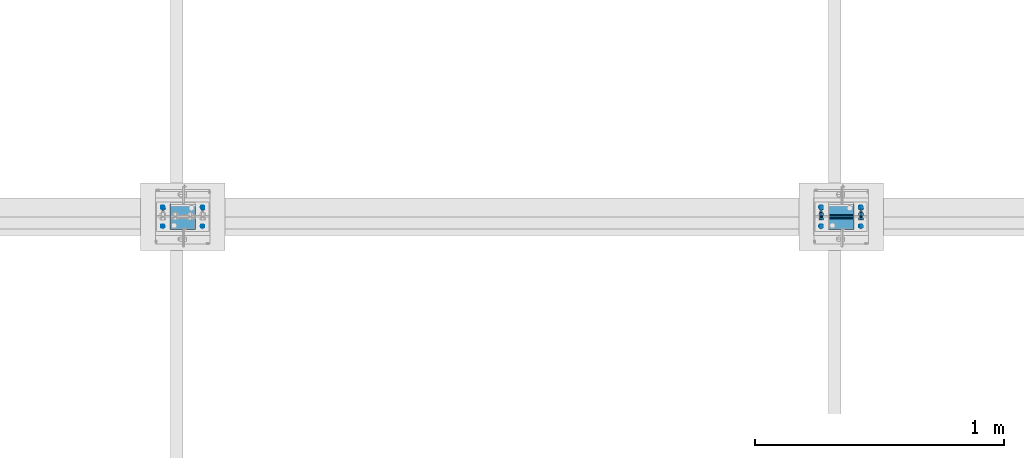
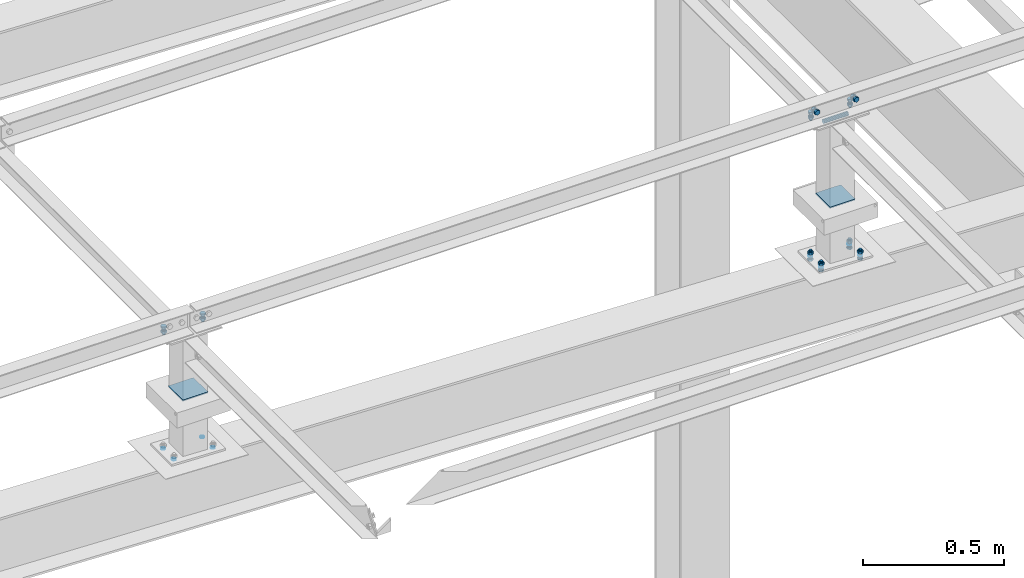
# One storey, part 178 of 3134: 9 mechanical fasteners, 6 elements without a shape of their own.
"""IFC2X3 building model written with IfcOpenShell, lengths in millimetres."""

from ifc_helpers import new_model, si_unit, frame, origin_with_axes, place, context, subcontext, project, spatial, faceted_brep, source, transform, mapped, material, type_object, element, aggregate, save


model = new_model("IFC2X3")

# Units and contexts
model_context = context("Model", 3, precision=1e-05, world=origin_with_axes())
body_context = subcontext(model_context, "Body", "Model", "MODEL_VIEW")
ifc_project = project(units=[si_unit("LENGTHUNIT", "METRE", prefix="MILLI"), si_unit("AREAUNIT", "SQUARE_METRE"), si_unit("VOLUMEUNIT", "CUBIC_METRE"), si_unit("MASSUNIT", "GRAM", prefix="KILO"), si_unit("TIMEUNIT", "SECOND"), si_unit("PLANEANGLEUNIT", "RADIAN"), si_unit("SOLIDANGLEUNIT", "STERADIAN"), si_unit("THERMODYNAMICTEMPERATUREUNIT", "DEGREE_CELSIUS"), si_unit("LUMINOUSINTENSITYUNIT", "LUMEN")], contexts=[model_context])

# Site, building, storey
site_placement = place(None, origin_with_axes())
site = spatial("IfcSite", under=ifc_project, at=site_placement, CompositionType="ELEMENT")
building_placement = place(site_placement, origin_with_axes())
building = spatial("IfcBuilding", under=site, at=building_placement, Name="Undefined", CompositionType="ELEMENT")
storey_placement = place(building_placement, origin_with_axes())
storey = spatial("IfcBuildingStorey", under=building, at=storey_placement, Name="Undefined", CompositionType="ELEMENT", Elevation=0.0)

# Assembly, mechanical fastener
assembly_1_placement = place(storey_placement, origin_with_axes())
assembly_1 = element("IfcElementAssembly", 1, at=assembly_1_placement, inside=storey, AssemblyPlace="NOTDEFINED", PredefinedType="RIGID_FRAME")
ifc_material_1 = material(Name="8.8")
mechanical_fastener_type = type_object("IfcMechanicalFastenerType", Name="Bolt assembly")
shared_shape_1 = source(origin_with_axes(), body_context, "Body", "Brep", [
    faceted_brep([(10.9696551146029, -14.0, 0.0), (5.48482755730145, -14.0, 9.5), (-5.48482755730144, -14.0, 9.5), (-10.9696551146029, -14.0, 1.34339530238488e-15), (-5.48482755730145, -14.0, -9.5), (5.48482755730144, -14.0, -9.50000000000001), (5.48482755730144, -6.0, -9.50000000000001), (-5.48482755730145, -6.0, -9.5), (-10.9696551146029, -6.0, 1.34339530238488e-15), (-5.48482755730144, -6.0, 9.5), (5.48482755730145, -6.0, 9.5), (10.9696551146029, -6.0, 0.0), (6.0, -6.0, 0.0), (5.19615242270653, -6.0, 3.00000000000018), (2.99999999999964, -6.0, 5.19615242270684), (-6.21801588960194e-13, -6.0, 6.0), (-3.00000000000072, -6.0, 5.19615242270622), (-5.19615242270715, -6.0, 2.9999999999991), (-6.0, -6.0, -1.24360317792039e-12), (-5.19615242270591, -6.0, -3.00000000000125), (-2.99999999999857, -6.0, -5.19615242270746), (1.85874342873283e-12, -6.0, -6.0), (3.00000000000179, -6.0, -5.1961524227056), (5.19615242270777, -6.0, -2.99999999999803), (5.19615242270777, 24.0, -2.99999999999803), (3.00000000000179, 24.0, -5.1961524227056), (1.85874342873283e-12, 24.0, -6.0), (-2.99999999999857, 24.0, -5.19615242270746), (-5.19615242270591, 24.0, -3.00000000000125), (-6.0, 24.0, -1.24360317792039e-12), (-5.19615242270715, 24.0, 2.9999999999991), (-3.00000000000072, 24.0, 5.19615242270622), (-6.21801588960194e-13, 24.0, 6.0), (2.99999999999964, 24.0, 5.19615242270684), (5.19615242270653, 24.0, 3.00000000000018), (6.0, 24.0, 0.0), (10.9696551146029, 6.00000000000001, 0.0), (5.48482755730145, 6.00000000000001, 9.5), (-5.48482755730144, 6.00000000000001, 9.5), (-10.9696551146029, 6.00000000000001, 1.34339530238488e-15), (-5.48482755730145, 6.00000000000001, -9.5), (5.48482755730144, 6.00000000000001, -9.50000000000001), (5.48482755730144, 16.0, -9.50000000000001), (-5.48482755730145, 16.0, -9.5), (-10.9696551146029, 16.0, 1.34339530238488e-15), (-5.48482755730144, 16.0, 9.5), (5.48482755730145, 16.0, 9.5), (10.9696551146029, 16.0, 0.0)], [[[0, 1, 2, 3, 4, 5]], [[6, 7, 8, 9, 10, 11]], [[0, 11, 10, 1]], [[1, 10, 9, 2]], [[2, 9, 8, 3]], [[3, 8, 7, 4]], [[4, 7, 6, 5]], [[5, 6, 11, 0]], [[12, 13, 14, 15, 16, 17, 18, 19, 20, 21, 22, 23]], [[24, 25, 26, 27, 28, 29, 30, 31, 32, 33, 34, 35]], [[12, 35, 34, 13]], [[13, 34, 33, 14]], [[14, 33, 32, 15]], [[15, 32, 31, 16]], [[16, 31, 30, 17]], [[17, 30, 29, 18]], [[18, 29, 28, 19]], [[19, 28, 27, 20]], [[20, 27, 26, 21]], [[21, 26, 25, 22]], [[22, 25, 24, 23]], [[23, 24, 35, 12]], [[36, 37, 38, 39, 40, 41]], [[42, 43, 44, 45, 46, 47]], [[36, 47, 46, 37]], [[37, 46, 45, 38]], [[38, 45, 44, 39]], [[39, 44, 43, 40]], [[40, 43, 42, 41]], [[41, 42, 47, 36]]]),
    faceted_brep([(7.0, -0.1, 0.0), (6.06217782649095, -0.1, 3.50000000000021), (3.49999999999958, -0.1, 6.06217782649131), (-7.25435187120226e-13, -0.1, 7.0), (-3.50000000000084, -0.1, 6.06217782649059), (-6.06217782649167, -0.1, 3.49999999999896), (-7.0, -0.1, -1.45087037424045e-12), (-6.06217782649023, -0.1, -3.50000000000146), (-3.49999999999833, -0.1, -6.06217782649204), (2.1685340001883e-12, -0.1, -7.0), (3.50000000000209, -0.1, -6.06217782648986), (6.0621778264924, -0.1, -3.4999999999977), (6.0621778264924, 6.00000000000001, -3.4999999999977), (3.50000000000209, 6.00000000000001, -6.06217782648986), (2.1685340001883e-12, 6.00000000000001, -7.0), (-3.49999999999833, 6.00000000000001, -6.06217782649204), (-6.06217782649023, 6.00000000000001, -3.50000000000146), (-7.0, 6.00000000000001, -1.45087037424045e-12), (-6.06217782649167, 6.00000000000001, 3.49999999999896), (-3.50000000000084, 6.00000000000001, 6.06217782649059), (-7.25435187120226e-13, 6.00000000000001, 7.0), (3.49999999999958, 6.00000000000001, 6.06217782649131), (6.06217782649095, 6.00000000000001, 3.50000000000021), (7.0, 6.00000000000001, 0.0), (7.0, -5.9, 0.0), (6.06217782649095, -5.9, 3.50000000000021), (3.49999999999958, -5.9, 6.06217782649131), (-7.25435187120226e-13, -5.9, 7.0), (-3.50000000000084, -5.9, 6.06217782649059), (-6.06217782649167, -5.9, 3.49999999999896), (-7.0, -5.9, -1.45087037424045e-12), (-6.06217782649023, -5.9, -3.50000000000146), (-3.49999999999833, -5.9, -6.06217782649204), (2.1685340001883e-12, -5.9, -7.0), (3.50000000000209, -5.9, -6.06217782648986), (6.0621778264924, -5.9, -3.4999999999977), (6.0621778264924, 0.0999999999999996, -3.4999999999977), (3.50000000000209, 0.0999999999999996, -6.06217782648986), (2.1685340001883e-12, 0.0999999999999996, -7.0), (-3.49999999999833, 0.0999999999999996, -6.06217782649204), (-6.06217782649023, 0.0999999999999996, -3.50000000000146), (-7.0, 0.0999999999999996, -1.45087037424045e-12), (-6.06217782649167, 0.0999999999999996, 3.49999999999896), (-3.50000000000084, 0.0999999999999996, 6.06217782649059), (-7.25435187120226e-13, 0.0999999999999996, 7.0), (3.49999999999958, 0.0999999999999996, 6.06217782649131), (6.06217782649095, 0.0999999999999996, 3.50000000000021), (7.0, 0.0999999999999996, 0.0)], [[[0, 1, 2, 3, 4, 5, 6, 7, 8, 9, 10, 11]], [[12, 13, 14, 15, 16, 17, 18, 19, 20, 21, 22, 23]], [[0, 23, 22, 1]], [[1, 22, 21, 2]], [[2, 21, 20, 3]], [[3, 20, 19, 4]], [[4, 19, 18, 5]], [[5, 18, 17, 6]], [[6, 17, 16, 7]], [[7, 16, 15, 8]], [[8, 15, 14, 9]], [[9, 14, 13, 10]], [[10, 13, 12, 11]], [[11, 12, 23, 0]], [[24, 25, 26, 27, 28, 29, 30, 31, 32, 33, 34, 35]], [[36, 37, 38, 39, 40, 41, 42, 43, 44, 45, 46, 47]], [[24, 47, 46, 25]], [[25, 46, 45, 26]], [[26, 45, 44, 27]], [[27, 44, 43, 28]], [[28, 43, 42, 29]], [[29, 42, 41, 30]], [[30, 41, 40, 31]], [[31, 40, 39, 32]], [[32, 39, 38, 33]], [[33, 38, 37, 34]], [[34, 37, 36, 35]], [[35, 36, 47, 24]]]),
])
mechanical_fastener_1_placement = place(assembly_1_placement, frame((8340.0, 37616.25, 4365.0), z_axis=(1.0, 0.0, 0.0), x_axis=(0.0, -1.0, 0.0)))
mechanical_fastener_1 = element("IfcMechanicalFastener", 2, at=mechanical_fastener_1_placement, type_object=mechanical_fastener_type, material=ifc_material_1, Name="Bolt assembly", NominalDiameter=12.0, NominalLength=30.0, context=body_context, shape_type="MappedRepresentation", body=[
    mapped(shared_shape_1, transform((0.0, -5.32963895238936e-10, -79.9999999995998))),
    mapped(shared_shape_1, transform((0.0, 5.3114490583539e-10, 79.9999999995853))),
])

assembly_2_placement = place(storey_placement, origin_with_axes())
assembly_2 = element("IfcElementAssembly", 3, at=assembly_2_placement, inside=storey, AssemblyPlace="NOTDEFINED", PredefinedType="RIGID_FRAME")
mechanical_fastener_2_placement = place(assembly_2_placement, frame((5691.67, 37616.25, 4365.0), z_axis=(1.0, 0.0, 0.0), x_axis=(0.0, -1.0, 0.0)))
mechanical_fastener_2 = element("IfcMechanicalFastener", 4, at=mechanical_fastener_2_placement, type_object=mechanical_fastener_type, material=ifc_material_1, Name="Bolt assembly", NominalDiameter=12.0, NominalLength=30.0, context=body_context, shape_type="MappedRepresentation", body=[
    mapped(shared_shape_1, transform((0.0, -5.32963895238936e-10, -79.9999999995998))),
    mapped(shared_shape_1, transform((0.0, 5.3114490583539e-10, 79.9999999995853))),
])
aggregate(assembly_2, [mechanical_fastener_2])

assembly_3_placement = place(storey_placement, origin_with_axes())
assembly_3 = element("IfcElementAssembly", 5, at=assembly_3_placement, inside=storey, AssemblyPlace="NOTDEFINED", PredefinedType="RIGID_FRAME")
shared_shape_2 = source(origin_with_axes(), body_context, "Body", "Brep", [
    faceted_brep([(10.9696551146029, -4.18346828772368, 0.0), (5.48482755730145, -4.18346828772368, 9.5), (-5.48482755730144, -4.18346828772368, 9.5), (-10.9696551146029, -4.18346828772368, 1.34339530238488e-15), (-5.48482755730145, -4.18346828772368, -9.5), (5.48482755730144, -4.18346828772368, -9.50000000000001), (5.48482755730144, 3.81653171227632, -9.50000000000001), (-5.48482755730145, 3.81653171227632, -9.5), (-10.9696551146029, 3.81653171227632, 1.34339530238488e-15), (-5.48482755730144, 3.81653171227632, 9.5), (5.48482755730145, 3.81653171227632, 9.5), (10.9696551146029, 3.81653171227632, 0.0), (6.0, 3.81653171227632, 0.0), (5.19615242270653, 3.81653171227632, 3.00000000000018), (2.99999999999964, 3.81653171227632, 5.19615242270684), (-6.21801588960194e-13, 3.81653171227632, 6.0), (-3.00000000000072, 3.81653171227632, 5.19615242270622), (-5.19615242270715, 3.81653171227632, 2.9999999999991), (-6.0, 3.81653171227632, -1.24360317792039e-12), (-5.19615242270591, 3.81653171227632, -3.00000000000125), (-2.99999999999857, 3.81653171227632, -5.19615242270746), (1.85874342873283e-12, 3.81653171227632, -6.0), (3.00000000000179, 3.81653171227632, -5.1961524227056), (5.19615242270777, 3.81653171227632, -2.99999999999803), (5.19615242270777, 38.8165317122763, -2.99999999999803), (3.00000000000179, 38.8165317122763, -5.1961524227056), (1.85874342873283e-12, 38.8165317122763, -6.0), (-2.99999999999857, 38.8165317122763, -5.19615242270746), (-5.19615242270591, 38.8165317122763, -3.00000000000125), (-6.0, 38.8165317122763, -1.24360317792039e-12), (-5.19615242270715, 38.8165317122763, 2.9999999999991), (-3.00000000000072, 38.8165317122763, 5.19615242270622), (-6.21801588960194e-13, 38.8165317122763, 6.0), (2.99999999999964, 38.8165317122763, 5.19615242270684), (5.19615242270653, 38.8165317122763, 3.00000000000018), (6.0, 38.8165317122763, 0.0), (10.9696551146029, 23.0139082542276, 0.0), (5.48482755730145, 23.0139082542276, 9.5), (-5.48482755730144, 23.0139082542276, 9.5), (-10.9696551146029, 23.0139082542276, 1.34339530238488e-15), (-5.48482755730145, 23.0139082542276, -9.5), (5.48482755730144, 23.0139082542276, -9.50000000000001), (5.48482755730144, 33.0139082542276, -9.50000000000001), (-5.48482755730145, 33.0139082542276, -9.5), (-10.9696551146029, 33.0139082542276, 1.34339530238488e-15), (-5.48482755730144, 33.0139082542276, 9.5), (5.48482755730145, 33.0139082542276, 9.5), (10.9696551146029, 33.0139082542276, 0.0)], [[[0, 1, 2, 3, 4, 5]], [[6, 7, 8, 9, 10, 11]], [[0, 11, 10, 1]], [[1, 10, 9, 2]], [[2, 9, 8, 3]], [[3, 8, 7, 4]], [[4, 7, 6, 5]], [[5, 6, 11, 0]], [[12, 13, 14, 15, 16, 17, 18, 19, 20, 21, 22, 23]], [[24, 25, 26, 27, 28, 29, 30, 31, 32, 33, 34, 35]], [[12, 35, 34, 13]], [[13, 34, 33, 14]], [[14, 33, 32, 15]], [[15, 32, 31, 16]], [[16, 31, 30, 17]], [[17, 30, 29, 18]], [[18, 29, 28, 19]], [[19, 28, 27, 20]], [[20, 27, 26, 21]], [[21, 26, 25, 22]], [[22, 25, 24, 23]], [[23, 24, 35, 12]], [[36, 37, 38, 39, 40, 41]], [[42, 43, 44, 45, 46, 47]], [[36, 47, 46, 37]], [[37, 46, 45, 38]], [[38, 45, 44, 39]], [[39, 44, 43, 40]], [[40, 43, 42, 41]], [[41, 42, 47, 36]]]),
    faceted_brep([(7.0, 3.91653171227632, 0.0), (6.06217782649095, 3.91653171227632, 3.50000000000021), (3.49999999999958, 3.91653171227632, 6.06217782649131), (-7.25435187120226e-13, 3.91653171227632, 7.0), (-3.50000000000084, 3.91653171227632, 6.06217782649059), (-6.06217782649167, 3.91653171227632, 3.49999999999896), (-7.0, 3.91653171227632, -1.45087037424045e-12), (-6.06217782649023, 3.91653171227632, -3.50000000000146), (-3.49999999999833, 3.91653171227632, -6.06217782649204), (2.1685340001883e-12, 3.91653171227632, -7.0), (3.50000000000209, 3.91653171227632, -6.06217782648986), (6.0621778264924, 3.91653171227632, -3.4999999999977), (6.0621778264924, 13.1165315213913, -3.4999999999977), (3.50000000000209, 13.1165315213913, -6.06217782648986), (2.1685340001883e-12, 13.1165315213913, -7.0), (-3.49999999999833, 13.1165315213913, -6.06217782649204), (-6.06217782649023, 13.1165315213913, -3.50000000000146), (-7.0, 13.1165315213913, -1.45087037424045e-12), (-6.06217782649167, 13.1165315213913, 3.49999999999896), (-3.50000000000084, 13.1165315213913, 6.06217782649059), (-7.25435187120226e-13, 13.1165315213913, 7.0), (3.49999999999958, 13.1165315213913, 6.06217782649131), (6.06217782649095, 13.1165315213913, 3.50000000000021), (7.0, 13.1165315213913, 0.0), (7.0, 14.9139082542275, 0.0), (6.06217782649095, 14.9139082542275, 3.50000000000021), (3.49999999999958, 14.9139082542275, 6.06217782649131), (-7.25435187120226e-13, 14.9139082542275, 7.0), (-3.50000000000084, 14.9139082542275, 6.06217782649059), (-6.06217782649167, 14.9139082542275, 3.49999999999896), (-7.0, 14.9139082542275, -1.45087037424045e-12), (-6.06217782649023, 14.9139082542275, -3.50000000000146), (-3.49999999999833, 14.9139082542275, -6.06217782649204), (2.1685340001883e-12, 14.9139082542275, -7.0), (3.50000000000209, 14.9139082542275, -6.06217782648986), (6.0621778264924, 14.9139082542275, -3.4999999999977), (6.0621778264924, 23.0139082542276, -3.4999999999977), (3.50000000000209, 23.0139082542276, -6.06217782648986), (2.1685340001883e-12, 23.0139082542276, -7.0), (-3.49999999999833, 23.0139082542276, -6.06217782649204), (-6.06217782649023, 23.0139082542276, -3.50000000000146), (-7.0, 23.0139082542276, -1.45087037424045e-12), (-6.06217782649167, 23.0139082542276, 3.49999999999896), (-3.50000000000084, 23.0139082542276, 6.06217782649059), (-7.25435187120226e-13, 23.0139082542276, 7.0), (3.49999999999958, 23.0139082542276, 6.06217782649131), (6.06217782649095, 23.0139082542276, 3.50000000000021), (7.0, 23.0139082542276, 0.0)], [[[0, 1, 2, 3, 4, 5, 6, 7, 8, 9, 10, 11]], [[12, 13, 14, 15, 16, 17, 18, 19, 20, 21, 22, 23]], [[0, 23, 22, 1]], [[1, 22, 21, 2]], [[2, 21, 20, 3]], [[3, 20, 19, 4]], [[4, 19, 18, 5]], [[5, 18, 17, 6]], [[6, 17, 16, 7]], [[7, 16, 15, 8]], [[8, 15, 14, 9]], [[9, 14, 13, 10]], [[10, 13, 12, 11]], [[11, 12, 23, 0]], [[24, 25, 26, 27, 28, 29, 30, 31, 32, 33, 34, 35]], [[36, 37, 38, 39, 40, 41, 42, 43, 44, 45, 46, 47]], [[24, 47, 46, 25]], [[25, 46, 45, 26]], [[26, 45, 44, 27]], [[27, 44, 43, 28]], [[28, 43, 42, 29]], [[29, 42, 41, 30]], [[30, 41, 40, 31]], [[31, 40, 39, 32]], [[32, 39, 38, 33]], [[33, 38, 37, 34]], [[34, 37, 36, 35]], [[35, 36, 47, 24]]]),
])
mechanical_fastener_3_placement = place(assembly_3_placement, frame((8339.1931765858, 37619.2499999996, 3735.10000668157), z_axis=(-0.999387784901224, 0.0, 0.0349865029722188), x_axis=(0.0, -1.0, 0.0)))
mechanical_fastener_3 = element("IfcMechanicalFastener", 6, at=mechanical_fastener_3_placement, type_object=mechanical_fastener_type, material=ifc_material_1, Name="Bolt assembly", NominalDiameter=12.0, NominalLength=35.0, context=body_context, shape_type="MappedRepresentation", body=[
    mapped(shared_shape_2, transform((0.0, -5.32963895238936e-10, -79.9999999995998))),
    mapped(shared_shape_2, transform((76.0, -5.32963895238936e-10, -79.9999999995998))),
    mapped(shared_shape_2, transform((0.0, 5.3114490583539e-10, 79.9999999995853))),
    mapped(shared_shape_2, transform((76.0, 5.3114490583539e-10, 79.9999999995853))),
])

assembly_4_placement = place(storey_placement, origin_with_axes())
assembly_4 = element("IfcElementAssembly", 7, at=assembly_4_placement, inside=storey, AssemblyPlace="NOTDEFINED", PredefinedType="RIGID_FRAME")
shared_shape_3 = source(origin_with_axes(), body_context, "Body", "Brep", [
    faceted_brep([(7.0, 13.0000253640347, 0.0), (6.06217782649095, 13.0000253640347, 3.50000000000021), (3.49999999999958, 13.0000253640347, 6.06217782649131), (-7.25435187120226e-13, 13.0000253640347, 7.0), (-3.50000000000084, 13.0000253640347, 6.06217782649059), (-6.06217782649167, 13.0000253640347, 3.49999999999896), (-7.0, 13.0000253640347, -1.45087037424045e-12), (-6.06217782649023, 13.0000253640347, -3.50000000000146), (-3.49999999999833, 13.0000253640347, -6.06217782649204), (2.1685340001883e-12, 13.0000253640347, -7.0), (3.50000000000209, 13.0000253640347, -6.06217782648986), (6.0621778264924, 13.0000253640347, -3.4999999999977), (6.0621778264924, 15.0999999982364, -3.4999999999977), (3.50000000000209, 15.0999999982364, -6.06217782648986), (2.1685340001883e-12, 15.0999999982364, -7.0), (-3.49999999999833, 15.0999999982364, -6.06217782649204), (-6.06217782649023, 15.0999999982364, -3.50000000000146), (-7.0, 15.0999999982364, -1.45087037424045e-12), (-6.06217782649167, 15.0999999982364, 3.49999999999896), (-3.50000000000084, 15.0999999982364, 6.06217782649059), (-7.25435187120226e-13, 15.0999999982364, 7.0), (3.49999999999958, 15.0999999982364, 6.06217782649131), (6.06217782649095, 15.0999999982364, 3.50000000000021), (7.0, 15.0999999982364, 0.0)], [[[0, 1, 2, 3, 4, 5, 6, 7, 8, 9, 10, 11]], [[12, 13, 14, 15, 16, 17, 18, 19, 20, 21, 22, 23]], [[0, 23, 22, 1]], [[1, 22, 21, 2]], [[2, 21, 20, 3]], [[3, 20, 19, 4]], [[4, 19, 18, 5]], [[5, 18, 17, 6]], [[6, 17, 16, 7]], [[7, 16, 15, 8]], [[8, 15, 14, 9]], [[9, 14, 13, 10]], [[10, 13, 12, 11]], [[11, 12, 23, 0]]]),
])
mechanical_fastener_4_placement = place(assembly_4_placement, frame((5690.86474073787, 37619.2499999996, 3827.79222028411), z_axis=(-0.999387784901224, 0.0, 0.0349865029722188), x_axis=(0.0, -1.0, 0.0)))
mechanical_fastener_4 = element("IfcMechanicalFastener", 8, at=mechanical_fastener_4_placement, type_object=mechanical_fastener_type, material=ifc_material_1, Name="Bolt assembly", NominalDiameter=12.0, NominalLength=2.0, context=body_context, shape_type="MappedRepresentation", body=[
    mapped(shared_shape_3, transform((0.0, -5.32963895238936e-10, -79.9999999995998))),
    mapped(shared_shape_3, transform((76.0, -5.32963895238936e-10, -79.9999999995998))),
    mapped(shared_shape_3, transform((0.0, 5.3114490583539e-10, 79.9999999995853))),
    mapped(shared_shape_3, transform((76.0, 5.3114490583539e-10, 79.9999999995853))),
])
aggregate(assembly_4, [mechanical_fastener_4])

assembly_5_placement = place(storey_placement, origin_with_axes())
assembly_5 = element("IfcElementAssembly", 9, at=assembly_5_placement, inside=storey, AssemblyPlace="NOTDEFINED", PredefinedType="RIGID_FRAME")
mechanical_fastener_5_placement = place(assembly_5_placement, frame((8339.1931765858, 37619.2499999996, 3735.10000668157), z_axis=(-0.999387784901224, 0.0, 0.0349865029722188), x_axis=(0.0, -1.0, 0.0)))
mechanical_fastener_5 = element("IfcMechanicalFastener", 10, at=mechanical_fastener_5_placement, type_object=mechanical_fastener_type, material=ifc_material_1, Name="Bolt assembly", NominalDiameter=12.0, NominalLength=2.0, context=body_context, shape_type="MappedRepresentation", body=[
    mapped(shared_shape_3, transform((0.0, -5.32963895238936e-10, -79.9999999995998))),
    mapped(shared_shape_3, transform((76.0, -5.32963895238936e-10, -79.9999999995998))),
    mapped(shared_shape_3, transform((0.0, 5.3114490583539e-10, 79.9999999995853))),
    mapped(shared_shape_3, transform((76.0, 5.3114490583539e-10, 79.9999999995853))),
])
aggregate(assembly_5, [mechanical_fastener_5])

# Mechanical fastener
shared_shape_4 = source(origin_with_axes(), body_context, "Body", "Brep", [
    faceted_brep([(9.0, -50.0, 0.0), (7.79422863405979, -50.0, 4.50000000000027), (4.49999999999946, -50.0, 7.79422863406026), (-9.3270238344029e-13, -50.0, 9.0), (-4.50000000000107, -50.0, 7.79422863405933), (-7.79422863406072, -50.0, 4.49999999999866), (-9.0, -50.0, -1.86540476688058e-12), (-7.79422863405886, -50.0, -4.50000000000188), (-4.49999999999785, -50.0, -7.79422863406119), (2.78811514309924e-12, -50.0, -9.0), (4.50000000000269, -50.0, -7.7942286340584), (7.79422863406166, -50.0, -4.49999999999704), (7.79422863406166, 50.1, -4.49999999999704), (4.50000000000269, 50.1, -7.7942286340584), (2.78811514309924e-12, 50.1, -9.0), (-4.49999999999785, 50.1, -7.79422863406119), (-7.79422863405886, 50.1, -4.50000000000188), (-9.0, 50.1, -1.86540476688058e-12), (-7.79422863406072, 50.1, 4.49999999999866), (-4.50000000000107, 50.1, 7.79422863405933), (-9.3270238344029e-13, 50.1, 9.0), (4.49999999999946, 50.1, 7.79422863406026), (7.79422863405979, 50.1, 4.50000000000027), (9.0, 50.1, 0.0)], [[[0, 1, 2, 3, 4, 5, 6, 7, 8, 9, 10, 11]], [[12, 13, 14, 15, 16, 17, 18, 19, 20, 21, 22, 23]], [[0, 23, 22, 1]], [[1, 22, 21, 2]], [[2, 21, 20, 3]], [[3, 20, 19, 4]], [[4, 19, 18, 5]], [[5, 18, 17, 6]], [[6, 17, 16, 7]], [[7, 16, 15, 8]], [[8, 15, 14, 9]], [[9, 14, 13, 10]], [[10, 13, 12, 11]], [[11, 12, 23, 0]]]),
])
mechanical_fastener_6_placement = place(assembly_3_placement, frame((8340.0, 37581.25, 4345.0), z_axis=(0.0, 1.0, 0.0), x_axis=(0.0, 0.0, 1.0)))
mechanical_fastener_6 = element("IfcMechanicalFastener", 11, at=mechanical_fastener_6_placement, type_object=mechanical_fastener_type, material=ifc_material_1, Name="Bolt assembly", NominalDiameter=16.0, NominalLength=100.0, context=body_context, shape_type="MappedRepresentation", body=[
    mapped(shared_shape_4, transform((0.0, 0.0, 0.0))),
])

# Assembly, mechanical fastener
assembly_6_placement = place(storey_placement, origin_with_axes())
assembly_6 = element("IfcElementAssembly", 12, at=assembly_6_placement, inside=storey, AssemblyPlace="NOTDEFINED", PredefinedType="RIGID_FRAME")
ifc_material_2 = material(Name="6.8")
shared_shape_5 = source(origin_with_axes(), body_context, "Body", "Brep", [
    faceted_brep([(51.5, 1.36424205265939e-12, 50.0), (51.3858192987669, 1.36424205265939e-12, 50.5740251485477), (51.0606601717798, 1.36424205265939e-12, 51.0606601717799), (50.5740251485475, 1.36424205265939e-12, 51.385819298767), (-50.0000000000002, 1.36424205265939e-12, 51.5), (-50.7500000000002, 1.36424205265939e-12, 51.2990381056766), (-51.2990381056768, 1.36424205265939e-12, 50.7499999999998), (-51.5, 1.36424205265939e-12, 49.9999999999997), (-51.5, 1.36424205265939e-12, -50.0000000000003), (-51.2990381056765, 1.36424205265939e-12, -50.7500000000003), (-50.7499999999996, 1.36424205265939e-12, -51.2990381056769), (-49.9999999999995, 1.36424205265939e-12, -51.5), (50.0000000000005, 1.36424205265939e-12, -51.5), (50.7500000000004, 1.36424205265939e-12, -51.2990381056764), (51.2990381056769, 1.36424205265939e-12, -50.7499999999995), (51.5, 1.36424205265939e-12, -49.9999999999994), (51.5, 5.10000000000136, -49.9999999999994), (51.2990381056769, 5.10000000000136, -50.7499999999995), (50.7500000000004, 5.10000000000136, -51.2990381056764), (50.0000000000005, 5.10000000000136, -51.5), (-49.9999999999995, 5.10000000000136, -51.5), (-50.7499999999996, 5.10000000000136, -51.2990381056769), (-51.2990381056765, 5.10000000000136, -50.7500000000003), (-51.5, 5.10000000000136, -50.0000000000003), (-51.5, 5.10000000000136, 49.9999999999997), (-51.2990381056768, 5.10000000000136, 50.7499999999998), (-50.7500000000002, 5.10000000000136, 51.2990381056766), (-50.0000000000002, 5.10000000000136, 51.5), (50.5740251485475, 5.10000000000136, 51.385819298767), (51.0606601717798, 5.10000000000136, 51.0606601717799), (51.3858192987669, 5.10000000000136, 50.5740251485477), (51.5, 5.10000000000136, 50.0)], [[[0, 1, 2, 3, 4, 5, 6, 7, 8, 9, 10, 11, 12, 13, 14, 15]], [[16, 17, 18, 19, 20, 21, 22, 23, 24, 25, 26, 27, 28, 29, 30, 31]], [[0, 31, 30, 1]], [[1, 30, 29, 2]], [[2, 29, 28, 3]], [[3, 28, 27, 4]], [[4, 27, 26, 5]], [[5, 26, 25, 6]], [[6, 25, 24, 7]], [[7, 24, 23, 8]], [[8, 23, 22, 9]], [[9, 22, 21, 10]], [[10, 21, 20, 11]], [[11, 20, 19, 12]], [[12, 19, 18, 13]], [[13, 18, 17, 14]], [[14, 17, 16, 15]], [[15, 16, 31, 0]]]),
])
mechanical_fastener_7_placement = place(assembly_6_placement, frame((5691.66156415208, 37581.25, 4097.5922136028), z_axis=(0.0, -1.0, 0.0), x_axis=(-1.0, 0.0, 0.0)))
mechanical_fastener_7 = element("IfcMechanicalFastener", 13, at=mechanical_fastener_7_placement, type_object=mechanical_fastener_type, material=ifc_material_2, Name="Bolt assembly", NominalDiameter=10.0, NominalLength=5.0, context=body_context, shape_type="MappedRepresentation", body=[
    mapped(shared_shape_5, transform((0.0, 0.0, 0.0))),
])
aggregate(assembly_6, [mechanical_fastener_7])

# Mechanical fastener
mechanical_fastener_8_placement = place(assembly_3_placement, frame((8340.0, 37581.25, 4004.89), z_axis=(0.0, -1.0, 0.0), x_axis=(-1.0, 0.0, 0.0)))
mechanical_fastener_8 = element("IfcMechanicalFastener", 14, at=mechanical_fastener_8_placement, type_object=mechanical_fastener_type, material=ifc_material_2, Name="Bolt assembly", NominalDiameter=10.0, NominalLength=5.0, context=body_context, shape_type="MappedRepresentation", body=[
    mapped(shared_shape_5, transform((0.0, 0.0, 0.0))),
])

aggregate(assembly_3, [mechanical_fastener_3, mechanical_fastener_6, mechanical_fastener_8])

shared_shape_6 = source(origin_with_axes(), body_context, "Body", "Brep", [
    faceted_brep([(10.9696551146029, -12.0, 0.0), (5.48482755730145, -12.0, 9.5), (-5.48482755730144, -12.0, 9.5), (-10.9696551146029, -12.0, 1.34339530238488e-15), (-5.48482755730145, -12.0, -9.5), (5.48482755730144, -12.0, -9.50000000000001), (5.48482755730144, -4.0, -9.50000000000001), (-5.48482755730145, -4.0, -9.5), (-10.9696551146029, -4.0, 1.34339530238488e-15), (-5.48482755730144, -4.0, 9.5), (5.48482755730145, -4.0, 9.5), (10.9696551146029, -4.0, 0.0), (6.0, -4.0, 0.0), (5.19615242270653, -4.0, 3.00000000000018), (2.99999999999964, -4.0, 5.19615242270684), (-6.21801588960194e-13, -4.0, 6.0), (-3.00000000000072, -4.0, 5.19615242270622), (-5.19615242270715, -4.0, 2.9999999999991), (-6.0, -4.0, -1.24360317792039e-12), (-5.19615242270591, -4.0, -3.00000000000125), (-2.99999999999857, -4.0, -5.19615242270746), (1.85874342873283e-12, -4.0, -6.0), (3.00000000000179, -4.0, -5.1961524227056), (5.19615242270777, -4.0, -2.99999999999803), (5.19615242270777, 21.0, -2.99999999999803), (3.00000000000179, 21.0, -5.1961524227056), (1.85874342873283e-12, 21.0, -6.0), (-2.99999999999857, 21.0, -5.19615242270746), (-5.19615242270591, 21.0, -3.00000000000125), (-6.0, 21.0, -1.24360317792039e-12), (-5.19615242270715, 21.0, 2.9999999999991), (-3.00000000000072, 21.0, 5.19615242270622), (-6.21801588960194e-13, 21.0, 6.0), (2.99999999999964, 21.0, 5.19615242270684), (5.19615242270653, 21.0, 3.00000000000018), (6.0, 21.0, 0.0), (10.9696551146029, 6.00000000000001, 0.0), (5.48482755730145, 6.00000000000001, 9.5), (-5.48482755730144, 6.00000000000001, 9.5), (-10.9696551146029, 6.00000000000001, 1.34339530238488e-15), (-5.48482755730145, 6.00000000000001, -9.5), (5.48482755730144, 6.00000000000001, -9.50000000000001), (5.48482755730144, 16.0, -9.50000000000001), (-5.48482755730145, 16.0, -9.5), (-10.9696551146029, 16.0, 1.34339530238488e-15), (-5.48482755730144, 16.0, 9.5), (5.48482755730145, 16.0, 9.5), (10.9696551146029, 16.0, 0.0)], [[[0, 1, 2, 3, 4, 5]], [[6, 7, 8, 9, 10, 11]], [[0, 11, 10, 1]], [[1, 10, 9, 2]], [[2, 9, 8, 3]], [[3, 8, 7, 4]], [[4, 7, 6, 5]], [[5, 6, 11, 0]], [[12, 13, 14, 15, 16, 17, 18, 19, 20, 21, 22, 23]], [[24, 25, 26, 27, 28, 29, 30, 31, 32, 33, 34, 35]], [[12, 35, 34, 13]], [[13, 34, 33, 14]], [[14, 33, 32, 15]], [[15, 32, 31, 16]], [[16, 31, 30, 17]], [[17, 30, 29, 18]], [[18, 29, 28, 19]], [[19, 28, 27, 20]], [[20, 27, 26, 21]], [[21, 26, 25, 22]], [[22, 25, 24, 23]], [[23, 24, 35, 12]], [[36, 37, 38, 39, 40, 41]], [[42, 43, 44, 45, 46, 47]], [[36, 47, 46, 37]], [[37, 46, 45, 38]], [[38, 45, 44, 39]], [[39, 44, 43, 40]], [[40, 43, 42, 41]], [[41, 42, 47, 36]]]),
    faceted_brep([(7.0, -3.9, 0.0), (6.06217782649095, -3.9, 3.50000000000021), (3.49999999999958, -3.9, 6.06217782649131), (-7.25435187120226e-13, -3.9, 7.0), (-3.50000000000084, -3.9, 6.06217782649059), (-6.06217782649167, -3.9, 3.49999999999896), (-7.0, -3.9, -1.45087037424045e-12), (-6.06217782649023, -3.9, -3.50000000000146), (-3.49999999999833, -3.9, -6.06217782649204), (2.1685340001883e-12, -3.9, -7.0), (3.50000000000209, -3.9, -6.06217782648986), (6.0621778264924, -3.9, -3.4999999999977), (6.0621778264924, 0.0999999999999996, -3.4999999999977), (3.50000000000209, 0.0999999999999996, -6.06217782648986), (2.1685340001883e-12, 0.0999999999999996, -7.0), (-3.49999999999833, 0.0999999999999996, -6.06217782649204), (-6.06217782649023, 0.0999999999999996, -3.50000000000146), (-7.0, 0.0999999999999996, -1.45087037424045e-12), (-6.06217782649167, 0.0999999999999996, 3.49999999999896), (-3.50000000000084, 0.0999999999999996, 6.06217782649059), (-7.25435187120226e-13, 0.0999999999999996, 7.0), (3.49999999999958, 0.0999999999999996, 6.06217782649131), (6.06217782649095, 0.0999999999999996, 3.50000000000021), (7.0, 0.0999999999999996, 0.0), (7.0, -0.1, 0.0), (6.06217782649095, -0.1, 3.50000000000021), (3.49999999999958, -0.1, 6.06217782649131), (-7.25435187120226e-13, -0.1, 7.0), (-3.50000000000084, -0.1, 6.06217782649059), (-6.06217782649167, -0.1, 3.49999999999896), (-7.0, -0.1, -1.45087037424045e-12), (-6.06217782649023, -0.1, -3.50000000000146), (-3.49999999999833, -0.1, -6.06217782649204), (2.1685340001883e-12, -0.1, -7.0), (3.50000000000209, -0.1, -6.06217782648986), (6.0621778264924, -0.1, -3.4999999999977), (6.0621778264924, 6.00000000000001, -3.4999999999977), (3.50000000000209, 6.00000000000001, -6.06217782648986), (2.1685340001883e-12, 6.00000000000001, -7.0), (-3.49999999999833, 6.00000000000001, -6.06217782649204), (-6.06217782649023, 6.00000000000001, -3.50000000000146), (-7.0, 6.00000000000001, -1.45087037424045e-12), (-6.06217782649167, 6.00000000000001, 3.49999999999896), (-3.50000000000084, 6.00000000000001, 6.06217782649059), (-7.25435187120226e-13, 6.00000000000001, 7.0), (3.49999999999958, 6.00000000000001, 6.06217782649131), (6.06217782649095, 6.00000000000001, 3.50000000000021), (7.0, 6.00000000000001, 0.0)], [[[0, 1, 2, 3, 4, 5, 6, 7, 8, 9, 10, 11]], [[12, 13, 14, 15, 16, 17, 18, 19, 20, 21, 22, 23]], [[0, 23, 22, 1]], [[1, 22, 21, 2]], [[2, 21, 20, 3]], [[3, 20, 19, 4]], [[4, 19, 18, 5]], [[5, 18, 17, 6]], [[6, 17, 16, 7]], [[7, 16, 15, 8]], [[8, 15, 14, 9]], [[9, 14, 13, 10]], [[10, 13, 12, 11]], [[11, 12, 23, 0]], [[24, 25, 26, 27, 28, 29, 30, 31, 32, 33, 34, 35]], [[36, 37, 38, 39, 40, 41, 42, 43, 44, 45, 46, 47]], [[24, 47, 46, 25]], [[25, 46, 45, 26]], [[26, 45, 44, 27]], [[27, 44, 43, 28]], [[28, 43, 42, 29]], [[29, 42, 41, 30]], [[30, 41, 40, 31]], [[31, 40, 39, 32]], [[32, 39, 38, 33]], [[33, 38, 37, 34]], [[34, 37, 36, 35]], [[35, 36, 47, 24]]]),
])
mechanical_fastener_9_placement = place(assembly_1_placement, frame((8340.0, 37581.25, 4400.0), z_axis=(1.0, 0.0, 0.0), x_axis=(0.0, 0.0, -1.0)))
mechanical_fastener_9 = element("IfcMechanicalFastener", 15, at=mechanical_fastener_9_placement, type_object=mechanical_fastener_type, material=ifc_material_1, Name="Bolt assembly", NominalDiameter=12.0, NominalLength=25.0, context=body_context, shape_type="MappedRepresentation", body=[
    mapped(shared_shape_6, transform((0.0, -5.32963895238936e-10, -79.9999999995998))),
    mapped(shared_shape_6, transform((0.0, 5.3114490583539e-10, 79.9999999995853))),
])

aggregate(assembly_1, [mechanical_fastener_1, mechanical_fastener_9])

save(model, "model.ifc")
